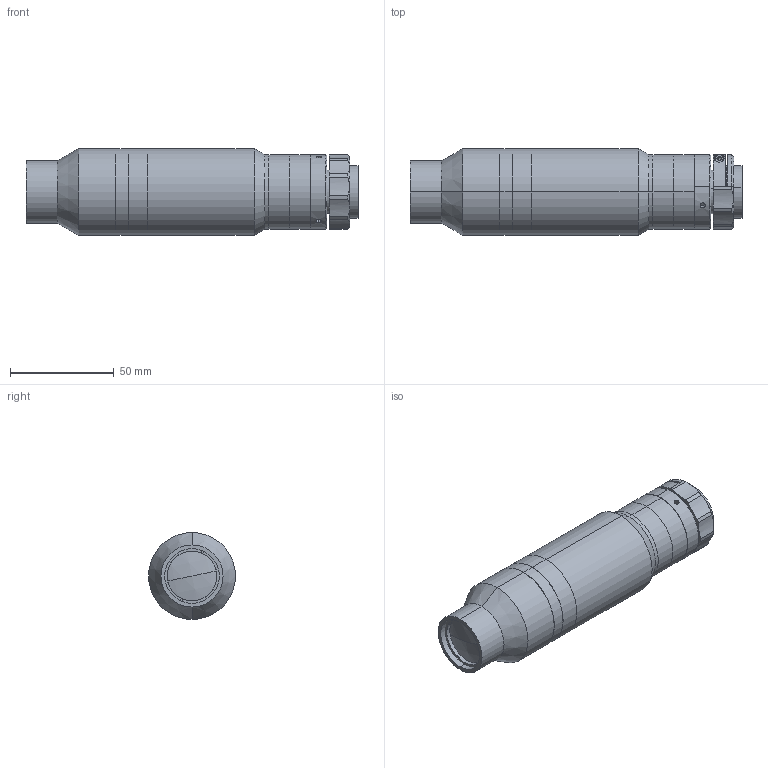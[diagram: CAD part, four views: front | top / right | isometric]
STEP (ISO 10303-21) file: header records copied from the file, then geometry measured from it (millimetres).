
FILE_DESCRIPTION (( 'STEP AP203' ), '1' );
FILE_NAME ('XF-MH02X644.STEP', '2020-08-24T07:14:17', ( 'canrill-02' ), ( '' ), 'SwSTEP 2.0', 'SolidWorks 2014', '' );
FILE_SCHEMA (( 'CONFIG_CONTROL_DESIGN' ));
Length unit declared in the file: millimetre
Products named in the file (1): XF-MH02X644
Bounding box: 160.35 x 42 x 42 mm (x, y, z)
Surface area: 26208.7 mm2 (no closed solid volume)
Topology: 0 solids, 14 shells, 113 faces, 296 edges, 201 vertices
Faces by surface type: cylinder 51, plane 41, cone 17, sphere 2, torus 2
Entity records: 3858 total; most frequent: CARTESIAN_POINT 930, DIRECTION 654, ORIENTED_EDGE 504, EDGE_CURVE 294, AXIS2_PLACEMENT_3D 269, VERTEX_POINT 201, CIRCLE 155, EDGE_LOOP 138
